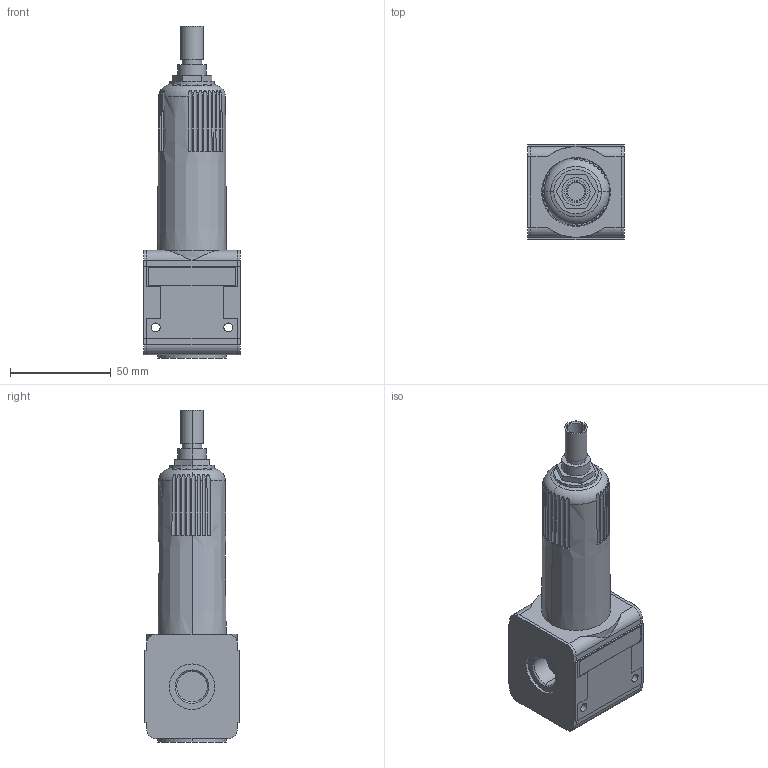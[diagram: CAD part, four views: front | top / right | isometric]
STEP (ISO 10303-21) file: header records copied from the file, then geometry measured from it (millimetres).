
FILE_DESCRIPTION((''),'2;1');
FILE_NAME('0821303443_ASM','2019-02-22T',('PDH2HC'),(''),'CREO PARAMETRIC BY PTC INC, 2016260','CREO PARAMETRIC BY PTC INC, 2016260','');
FILE_SCHEMA(('CONFIG_CONTROL_DESIGN'));
Length unit declared in the file: millimetre
Products named in the file (4): 0821303443-A; 0821303443-B; 0821303443-D; 0821303443_ASM
Assembly tree (4 placements, depth 2):
  0821303443_ASM
    0821303443-A
    0821303443-B
    0821303443-D  x2
Bounding box: 48 x 47.4 x 165 mm (x, y, z)
Volume: 185536.3 mm3; surface area: 38152.1 mm2
Topology: 4 solids, 4 shells, 200 faces, 533 edges, 351 vertices
Faces by surface type: plane 124, cylinder 64, cone 10, torus 2
Entity records: 6634 total; most frequent: CARTESIAN_POINT 2238, ORIENTED_EDGE 910, DIRECTION 886, EDGE_CURVE 455, AXIS2_PLACEMENT_3D 328, VERTEX_POINT 299, VECTOR 230, LINE 230
